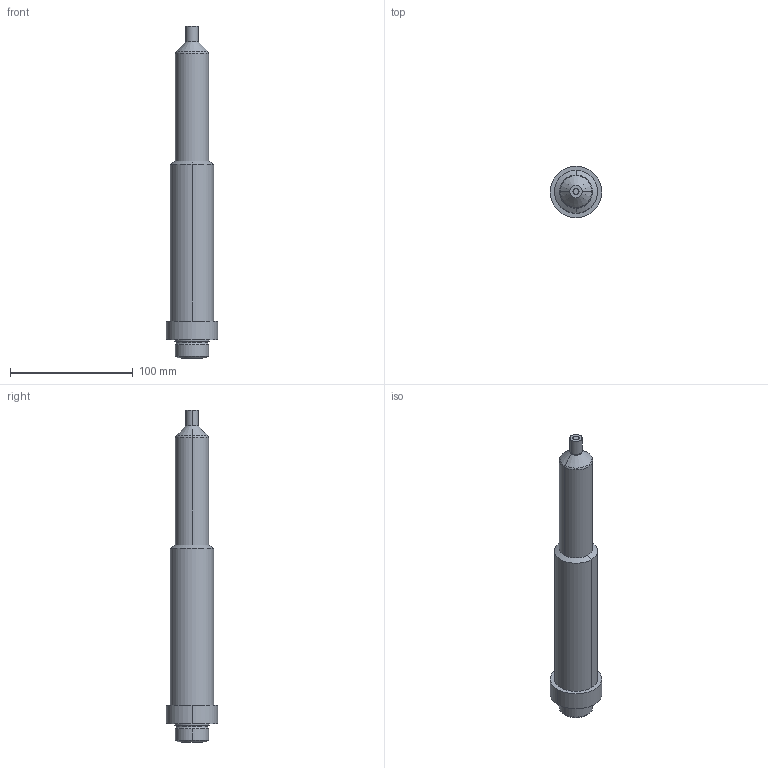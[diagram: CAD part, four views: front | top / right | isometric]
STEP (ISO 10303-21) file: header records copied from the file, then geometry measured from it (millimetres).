
FILE_DESCRIPTION (( 'STEP AP214' ), '1' );
FILE_NAME ('09EX12-03-245-V#P.step', '2023-04-19T08:36:36', ( '' ), ( '' ), 'SwSTEP 2.0', 'SolidWorks 2018', '' );
FILE_SCHEMA (( 'AUTOMOTIVE_DESIGN' ));
Length unit declared in the file: millimetre
Products named in the file (1): 09EX12-03-245-V#P
Bounding box: 42 x 42 x 270 mm (x, y, z)
Volume: 343141.2 mm3; surface area: 91023.9 mm2
Topology: 4 solids, 4 shells, 491 faces, 1267 edges, 787 vertices
Faces by surface type: cylinder 203, plane 155, torus 71, cone 50, bspline 6, sphere 6
Entity records: 24495 total; most frequent: CARTESIAN_POINT 6878, DIRECTION 2677, ORIENTED_EDGE 2526, EDGE_CURVE 1263, AXIS2_PLACEMENT_3D 1056, VERTEX_POINT 785, CIRCLE 570, LINE 565
